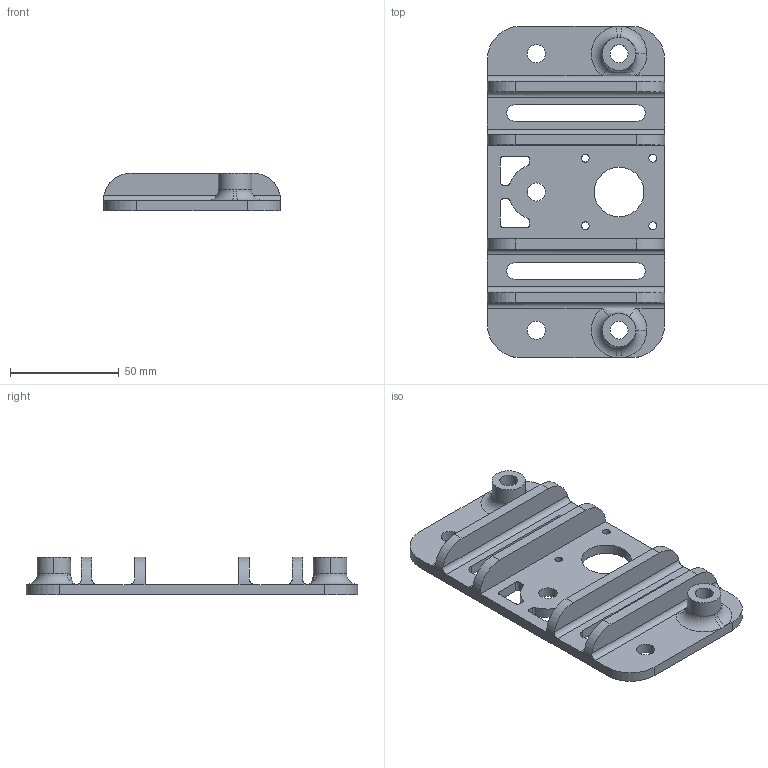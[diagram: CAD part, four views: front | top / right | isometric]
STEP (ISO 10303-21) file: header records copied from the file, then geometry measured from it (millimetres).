
FILE_DESCRIPTION (( 'STEP AP203' ), '1' );
FILE_NAME ('horz support motor side.STEP', '2017-10-24T20:02:41', ( '' ), ( '' ), 'SwSTEP 2.0', 'SolidWorks 2016', '' );
FILE_SCHEMA (( 'CONFIG_CONTROL_DESIGN' ));
Length unit declared in the file: inch
Products named in the file (1): horz support motor side
Bounding box: 81.4 x 152.4 x 17.46 mm (x, y, z)
Volume: 71978.6 mm3; surface area: 34770.9 mm2
Topology: 1 solids, 1 shells, 116 faces, 308 edges, 194 vertices
Faces by surface type: cylinder 60, plane 38, cone 8, torus 6, bspline 4
Entity records: 4091 total; most frequent: CARTESIAN_POINT 1007, DIRECTION 654, ORIENTED_EDGE 616, EDGE_CURVE 308, AXIS2_PLACEMENT_3D 249, VERTEX_POINT 194, LINE 156, VECTOR 156
